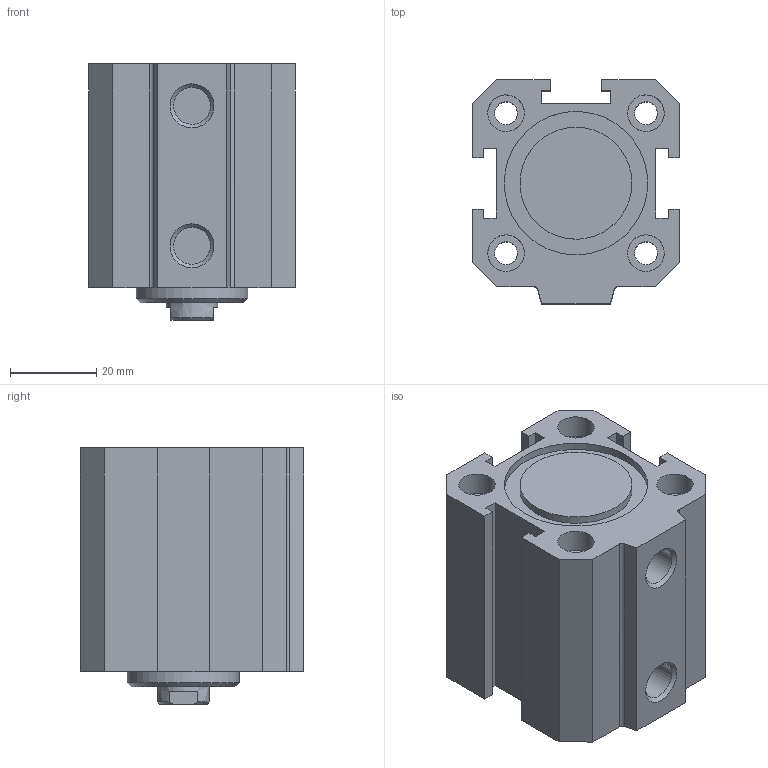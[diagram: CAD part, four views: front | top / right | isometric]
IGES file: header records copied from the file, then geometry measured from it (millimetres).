
Global section: file name: 1511_32_0015; native system: Autodesk Inventor 2014; preprocessor: unknown; author: A. Manieri; date: 20160824.113357; units: millimetre
Bounding box: 48 x 52 x 59.5 mm (x, y, z)
Volume: 91246.6 mm3; surface area: 30975.1 mm2
Topology: 2 solids, 2 shells, 93 faces, 237 edges, 166 vertices
Faces by surface type: bspline 93
